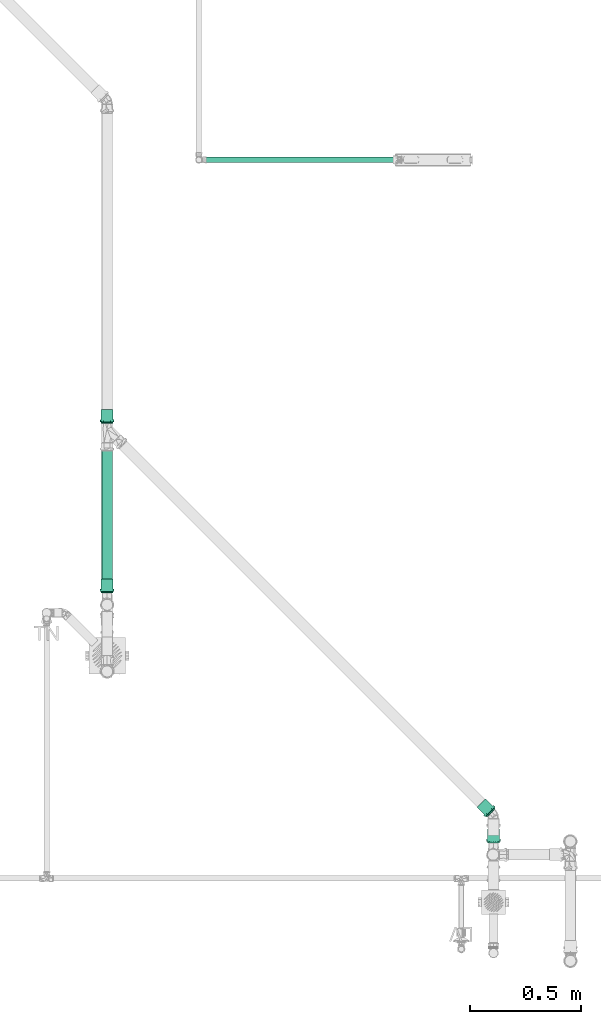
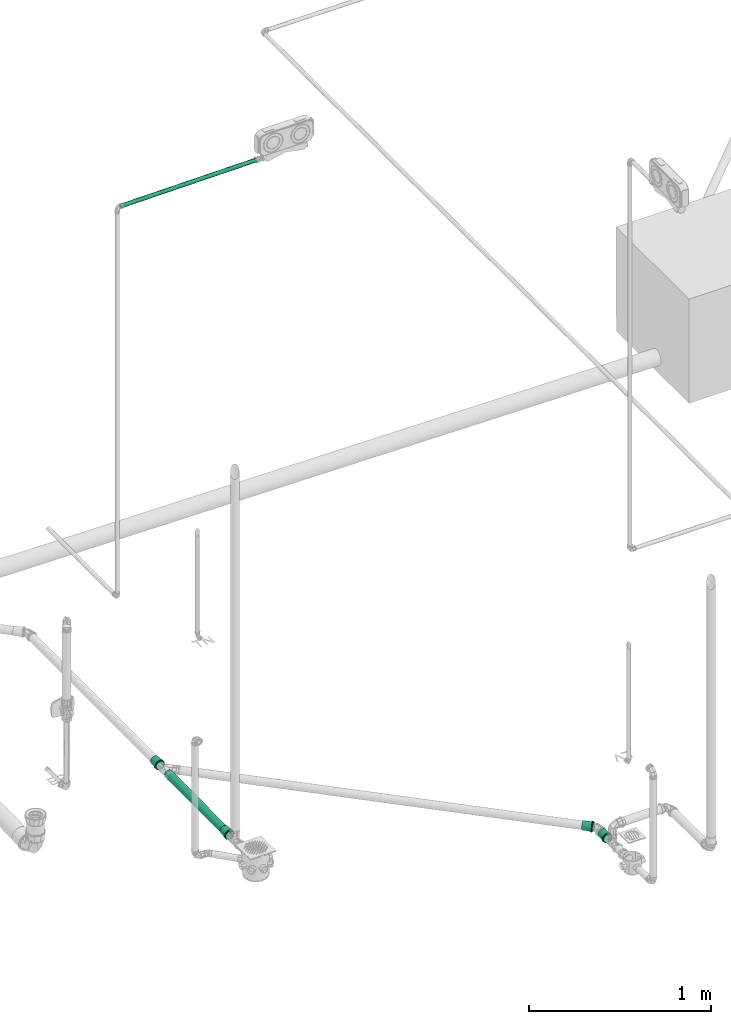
# One storey, part 232 of 589: 4 flow fittings, 2 flow segments.
"""IFC2X3 building model written with IfcOpenShell, lengths in millimetres."""

from ifc_helpers import new_model, entity, si_unit, converted_unit, derived_unit, direction, frame, frame_2d, origin, origin_2d_with_axis, place, context, subcontext, project, spatial, circle, extrude, faceted_brep, source, transform, mapped, material, type_object, type_shapes, element, save


model = new_model("IFC2X3")

# Units and contexts
model_context = context("Model", 3, precision=0.01, world=origin(), true_north=direction((6.123031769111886e-17, 1.0)))
body_context = subcontext(model_context, "Body", "Model", "MODEL_VIEW")
ifc_project = project(units=[si_unit("LENGTHUNIT", "METRE", prefix="MILLI"), si_unit("AREAUNIT", "SQUARE_METRE"), si_unit("VOLUMEUNIT", "CUBIC_METRE"), converted_unit("PLANEANGLEUNIT", "DEGREE", entity("IfcRatioMeasure", 0.017453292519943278), si_unit("PLANEANGLEUNIT", "RADIAN"), dimensions=[0, 0, 0, 0, 0, 0, 0]), si_unit("MASSUNIT", "GRAM", prefix="KILO"), derived_unit("MASSDENSITYUNIT", [(si_unit("MASSUNIT", "GRAM", prefix="KILO"), 1), (si_unit("LENGTHUNIT", "METRE"), -3)]), derived_unit("IONCONCENTRATIONUNIT", [(si_unit("MASSUNIT", "GRAM", prefix="KILO"), 1), (si_unit("LENGTHUNIT", "METRE"), -3)]), derived_unit("MOMENTOFINERTIAUNIT", [(si_unit("LENGTHUNIT", "METRE"), 4)]), si_unit("TIMEUNIT", "SECOND"), si_unit("FREQUENCYUNIT", "HERTZ"), si_unit("THERMODYNAMICTEMPERATUREUNIT", "DEGREE_CELSIUS"), derived_unit("THERMALTRANSMITTANCEUNIT", [(si_unit("MASSUNIT", "GRAM", prefix="KILO"), 1), (si_unit("THERMODYNAMICTEMPERATUREUNIT", "KELVIN"), -1), (si_unit("TIMEUNIT", "SECOND"), -3)]), derived_unit("THERMALCONDUCTANCEUNIT", [(si_unit("MASSUNIT", "GRAM", prefix="KILO"), 1), (si_unit("THERMODYNAMICTEMPERATUREUNIT", "KELVIN"), -1), (si_unit("TIMEUNIT", "SECOND"), -3), (si_unit("LENGTHUNIT", "METRE"), 1)]), derived_unit("VOLUMETRICFLOWRATEUNIT", [(si_unit("LENGTHUNIT", "METRE"), 3), (si_unit("TIMEUNIT", "SECOND"), -1)]), derived_unit("MASSFLOWRATEUNIT", [(si_unit("MASSUNIT", "GRAM", prefix="KILO"), 1), (si_unit("TIMEUNIT", "SECOND"), -1)]), derived_unit("ROTATIONALFREQUENCYUNIT", [(si_unit("TIMEUNIT", "SECOND"), -1)]), si_unit("ELECTRICCURRENTUNIT", "AMPERE"), si_unit("ELECTRICVOLTAGEUNIT", "VOLT"), si_unit("POWERUNIT", "WATT"), si_unit("FORCEUNIT", "NEWTON", prefix="KILO"), si_unit("ILLUMINANCEUNIT", "LUX"), si_unit("LUMINOUSFLUXUNIT", "LUMEN"), si_unit("LUMINOUSINTENSITYUNIT", "CANDELA"), derived_unit("USERDEFINED", [(si_unit("MASSUNIT", "GRAM", prefix="KILO"), -1), (si_unit("LENGTHUNIT", "METRE"), -2), (si_unit("TIMEUNIT", "SECOND"), 3), (si_unit("LUMINOUSFLUXUNIT", "LUMEN"), 1)]), derived_unit("USERDEFINED", [(si_unit("MASSUNIT", "GRAM", prefix="KILO"), 1), (si_unit("TIMEUNIT", "SECOND"), -3), (si_unit("LENGTHUNIT", "METRE"), 3), (si_unit("ELECTRICCURRENTUNIT", "AMPERE"), -2)]), derived_unit("SOUNDPOWERUNIT", [(si_unit("MASSUNIT", "GRAM", prefix="KILO"), 1), (si_unit("TIMEUNIT", "SECOND"), -3), (si_unit("LENGTHUNIT", "METRE"), 2)]), derived_unit("SOUNDPRESSUREUNIT", [(si_unit("MASSUNIT", "GRAM", prefix="KILO"), 1), (si_unit("LENGTHUNIT", "METRE"), -1), (si_unit("TIMEUNIT", "SECOND"), -2)]), derived_unit("LINEARVELOCITYUNIT", [(si_unit("LENGTHUNIT", "METRE"), 1), (si_unit("TIMEUNIT", "SECOND"), -1)]), si_unit("PRESSUREUNIT", "PASCAL"), derived_unit("USERDEFINED", [(si_unit("MASSUNIT", "GRAM", prefix="KILO"), 1), (si_unit("LENGTHUNIT", "METRE"), -2), (si_unit("TIMEUNIT", "SECOND"), -2)]), derived_unit("LINEARFORCEUNIT", [(si_unit("MASSUNIT", "GRAM", prefix="KILO"), 1), (si_unit("TIMEUNIT", "SECOND"), -2)]), derived_unit("PLANARFORCEUNIT", [(si_unit("MASSUNIT", "GRAM", prefix="KILO"), 1), (si_unit("LENGTHUNIT", "METRE"), -1), (si_unit("TIMEUNIT", "SECOND"), -2)]), derived_unit("SPECIFICHEATCAPACITYUNIT", [(si_unit("THERMODYNAMICTEMPERATUREUNIT", "KELVIN"), -1), (si_unit("LENGTHUNIT", "METRE"), 2), (si_unit("TIMEUNIT", "SECOND"), -2)]), derived_unit("HEATINGVALUEUNIT", [(si_unit("LENGTHUNIT", "METRE"), 2), (si_unit("TIMEUNIT", "SECOND"), -2)]), derived_unit("VAPORPERMEABILITYUNIT", [(si_unit("LENGTHUNIT", "METRE"), -1), (si_unit("TIMEUNIT", "SECOND"), 1)]), derived_unit("DYNAMICVISCOSITYUNIT", [(si_unit("MASSUNIT", "GRAM", prefix="KILO"), 1), (si_unit("TIMEUNIT", "SECOND"), -1), (si_unit("LENGTHUNIT", "METRE"), -1)]), derived_unit("THERMALEXPANSIONCOEFFICIENTUNIT", [(si_unit("THERMODYNAMICTEMPERATUREUNIT", "KELVIN"), -1)]), derived_unit("MODULUSOFELASTICITYUNIT", [(si_unit("MASSUNIT", "GRAM", prefix="KILO"), 1), (si_unit("LENGTHUNIT", "METRE"), -1), (si_unit("TIMEUNIT", "SECOND"), -2)]), derived_unit("ISOTHERMALMOISTURECAPACITYUNIT", [(si_unit("LENGTHUNIT", "METRE"), 3), (si_unit("MASSUNIT", "GRAM", prefix="KILO"), -1)]), derived_unit("MOISTUREDIFFUSIVITYUNIT", [(si_unit("TIMEUNIT", "SECOND"), -1), (si_unit("LENGTHUNIT", "METRE"), 2)])], contexts=[model_context])

# Site, building, storey
site_placement = place(None, origin())
site = spatial("IfcSite", under=ifc_project, at=site_placement, Name="Default", CompositionType="ELEMENT")
building_placement = place(site_placement, origin())
building = spatial("IfcBuilding", under=site, at=building_placement, CompositionType="ELEMENT")
storey_placement = place(building_placement, frame((0.0, 0.0, 100.0)))
storey = spatial("IfcBuildingStorey", under=building, at=storey_placement, Name="TÉRREO", CompositionType="ELEMENT", Elevation=100.0)

# Flow segments
pipe_segment_type_1 = type_object("IfcPipeSegmentType", Name="Tipos de tubos:PVC Esgoto Série Normal", PredefinedType="NOTDEFINED")
flow_segment_1_placement = place(storey_placement, origin())
element("IfcFlowSegment", 1, at=flow_segment_1_placement, inside=storey, type_object=pipe_segment_type_1, Name="Tipos de tubos:PVC Esgoto Série Normal", ObjectType="Tipos de tubos:PVC Esgoto Série Normal", context=body_context, shape_type="SweptSolid", body=[
    extrude(circle(Radius=25.0, at=frame_2d((0.0, -3.383918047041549e-14), x_axis=(1.0, 0.0))), frame((11656.425175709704, -437.84417376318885, -304.3930900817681), z_axis=(0.0, 0.9999876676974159, 0.0049663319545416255), x_axis=(1.0, 0.0, 0.0)), (0.0, 0.0, 1.0), 645.55429002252),
])
pipe_segment_type_2 = type_object("IfcPipeSegmentType", Name="Tipos de tubos:PVC Marrom Soldável", PredefinedType="NOTDEFINED")
flow_segment_2_placement = place(storey_placement, origin())
element("IfcFlowSegment", 2, at=flow_segment_2_placement, inside=storey, type_object=pipe_segment_type_2, Name="Tipos de tubos:PVC Marrom Soldável", ObjectType="Tipos de tubos:PVC Marrom Soldável", context=body_context, shape_type="SweptSolid", body=[
    extrude(circle(Radius=12.5, at=origin_2d_with_axis()), frame((12087.843995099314, 1487.2074695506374, 2577.9470883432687), z_axis=(0.9999500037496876, 0.0, 0.00999950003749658), x_axis=(0.0, 1.0, 0.0)), (0.0, 0.0, 1.0), 877.005019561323),
])

# Flow fittings
ifc_material = material(Name="PVC Série Normal")
pipe_fitting_type = type_object("IfcPipeFittingType", Name="PVC Esgoto_Luva Simples para Conexão_Rodrigo MEP:Standard", PredefinedType="NOTDEFINED", material=ifc_material)
shared_shape = source(origin(), body_context, "Body", "Brep", [
    faceted_brep([(16.599999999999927, 15.900000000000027, -27.53960784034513), (16.599999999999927, 22.485995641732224, -22.485995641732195), (16.599999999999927, 13.599999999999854, -23.555890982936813), (16.599999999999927, 7.039878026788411, -26.273182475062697), (16.599999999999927, 8.2304456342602, -30.71644127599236), (16.599999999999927, 19.233304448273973, -19.233304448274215), (16.599999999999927, 27.539607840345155, -15.899999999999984), (16.599999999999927, 23.55589098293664, -13.600000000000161), (16.599999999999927, 26.273182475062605, -7.03987802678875), (16.599999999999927, 30.716441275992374, -8.230445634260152), (16.599999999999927, 27.2, 0.0), (16.599999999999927, 31.8, 0.0), (16.599999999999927, 26.273182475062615, 7.0398780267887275), (16.599999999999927, 30.71644127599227, 8.23044563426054), (16.599999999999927, 23.555890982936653, 13.60000000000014), (16.599999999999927, 27.539607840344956, 15.900000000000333), (16.599999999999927, 19.233304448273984, 19.2333044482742), (16.599999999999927, 22.485995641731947, 22.48599564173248), (16.599999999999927, 13.599999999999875, 23.555890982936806), (16.599999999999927, 15.899999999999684, 27.53960784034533), (16.599999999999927, 7.039878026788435, 26.27318247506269), (16.599999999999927, 8.230445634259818, 30.716441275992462), (16.599999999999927, 0.0, 27.2), (16.599999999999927, 0.0, 31.8), (16.599999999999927, -7.039878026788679, 26.273182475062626), (16.599999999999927, -8.230445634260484, 30.716441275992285), (16.599999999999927, -13.600000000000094, 23.555890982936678), (16.599999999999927, -15.900000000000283, 27.53960784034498), (16.599999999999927, -19.23330444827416, 19.233304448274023), (16.599999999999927, -22.485995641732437, 22.48599564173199), (16.599999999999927, -23.55589098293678, 13.59999999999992), (16.599999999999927, -27.539607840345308, 15.899999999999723), (16.599999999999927, -30.71644127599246, 8.230445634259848), (16.599999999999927, -26.273182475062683, 7.039878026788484), (16.599999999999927, -31.8, 0.0), (16.599999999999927, -27.2, 0.0), (16.599999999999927, -30.71644127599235, -8.23044563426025), (16.599999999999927, -26.273182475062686, -7.03987802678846), (16.599999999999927, -27.53960784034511, -15.90000000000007), (16.599999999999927, -23.55589098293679, -13.599999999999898), (16.599999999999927, -22.485995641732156, -22.485995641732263), (16.599999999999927, -19.233304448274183, -19.233304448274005), (16.599999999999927, -15.899999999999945, -27.53960784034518), (16.599999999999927, -13.600000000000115, -23.555890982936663), (16.599999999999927, -8.230445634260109, -30.716441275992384), (16.599999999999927, -7.039878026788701, -26.273182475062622), (16.599999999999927, 0.0, -31.8), (16.599999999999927, 0.0, -27.2), (6.500000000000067, -10.708108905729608, 29.429219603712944), (6.500000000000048, -24.359073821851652, 20.44200387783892), (6.500000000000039, -27.120498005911, 15.6595386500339), (6.50000000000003, -29.881922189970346, 10.877073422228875), (6.500000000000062, -15.89769721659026, 27.540937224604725), (6.500000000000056, -20.128385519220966, 23.991470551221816), (6.50000000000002, -30.840961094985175, 5.438536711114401), (6.5000000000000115, -31.8, 0.0), (6.50000000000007, -5.518520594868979, 31.317501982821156), (6.500000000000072, 5.526376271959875, 31.316116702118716), (6.50000000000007, 0.00392783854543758, 31.316809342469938), (6.500000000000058, 20.134403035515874, 23.986420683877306), (6.500000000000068, 10.715490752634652, 29.42653259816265), (6.500000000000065, 15.904605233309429, 27.536948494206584), (6.500000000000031, 29.8846497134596, 10.869577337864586), (6.500000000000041, 27.12442527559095, 15.652735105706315), (6.5000000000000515, 24.364200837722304, 20.435892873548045), (6.5000000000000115, 31.8, 0.0), (6.499999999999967, 24.364200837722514, -20.435892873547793), (6.499999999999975, 27.12442527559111, -15.652735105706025), (6.499999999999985, 29.884649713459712, -10.869577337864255), (6.4999999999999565, 15.904605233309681, -27.53694849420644), (6.499999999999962, 20.134403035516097, -23.986420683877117), (6.499999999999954, 10.715490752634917, -29.42653259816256), (6.499999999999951, 5.526376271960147, -31.31611670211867), (6.499999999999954, -5.518520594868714, -31.317501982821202), (6.499999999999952, 0.003927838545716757, -31.316809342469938), (6.499999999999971, -20.128385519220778, -23.99147055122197), (6.499999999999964, -15.897697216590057, -27.54093722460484), (6.499999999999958, -10.70810890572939, -29.42921960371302), (6.499999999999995, -29.881922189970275, -10.877073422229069), (6.499999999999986, -27.12049800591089, -15.659538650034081), (6.499999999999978, -24.359073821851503, -20.442003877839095), (6.500000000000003, -30.840961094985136, -5.438536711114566), (6.499999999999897, -30.696173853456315, -6.259599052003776), (62.0, 13.600000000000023, -23.55589098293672), (62.0, 19.233304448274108, -19.23330444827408), (62.0, 12.499999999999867, -21.650635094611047), (62.0, 6.470476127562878, -24.14814565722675), (62.0, 7.039878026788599, -26.273182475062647), (62.0, 17.677669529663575, -17.677669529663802), (62.0, 23.55589098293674, -13.599999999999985), (62.0, 21.65063509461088, -12.50000000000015), (62.0, 24.148145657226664, -6.470476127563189), (62.0, 26.27318247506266, -7.039878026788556), (62.0, 25.0, 0.0), (62.0, 27.2, 0.0), (62.0, 24.148145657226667, 6.4704761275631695), (62.0, 26.273182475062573, 7.03987802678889), (62.0, 21.650635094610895, 12.500000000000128), (62.0, 23.555890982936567, 13.600000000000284), (62.0, 17.67766952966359, 17.67766952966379), (62.0, 19.233304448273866, 19.233304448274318), (62.0, 12.499999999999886, 21.650635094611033), (62.0, 13.59999999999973, 23.55589098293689), (62.0, 6.4704761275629, 24.14814565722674), (62.0, 7.039878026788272, 26.273182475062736), (62.0, 0.0, 25.0), (62.0, 0.0, 27.2), (62.0, -6.470476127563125, 24.148145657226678), (62.0, -7.039878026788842, 26.273182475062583), (62.0, -12.500000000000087, 21.650635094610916), (62.0, -13.600000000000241, 23.555890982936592), (62.0, -17.677669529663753, 17.677669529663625), (62.0, -19.233304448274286, 19.2333044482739), (62.0, -21.65063509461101, 12.499999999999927), (62.0, -23.555890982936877, 13.599999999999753), (62.0, -26.27318247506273, 7.039878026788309), (62.0, -24.14814565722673, 6.470476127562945), (62.0, -27.2, 0.0), (62.0, -25.0, 0.0), (62.0, -26.27318247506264, -7.0398780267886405), (62.0, -24.148145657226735, -6.470476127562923), (62.0, -23.5558909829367, -13.600000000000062), (62.0, -21.650635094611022, -12.499999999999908), (62.0, -19.233304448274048, -19.233304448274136), (62.0, -17.67766952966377, -17.677669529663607), (62.0, -13.599999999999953, -23.555890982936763), (62.0, -12.500000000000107, -21.650635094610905), (62.0, -7.039878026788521, -26.27318247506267), (62.0, -6.470476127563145, -24.148145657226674), (62.0, 0.0, -27.2), (62.0, 0.0, -25.0), (0.0, 12.499999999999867, -21.650635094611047), (0.0, 19.233304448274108, -19.23330444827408), (0.0, 13.600000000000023, -23.55589098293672), (0.0, 6.470476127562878, -24.14814565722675), (0.0, 17.677669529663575, -17.677669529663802), (0.0, 23.55589098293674, -13.599999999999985), (0.0, 21.65063509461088, -12.50000000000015), (0.0, 24.148145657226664, -6.470476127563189), (0.0, 26.27318247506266, -7.039878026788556), (0.0, 25.0, 0.0), (0.0, 27.2, 0.0), (0.0, 24.148145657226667, 6.4704761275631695), (0.0, 26.273182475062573, 7.03987802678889), (0.0, 21.650635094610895, 12.500000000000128), (0.0, 23.555890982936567, 13.600000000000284), (0.0, 17.67766952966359, 17.67766952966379), (0.0, 19.233304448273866, 19.233304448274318), (0.0, 12.499999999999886, 21.650635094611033), (0.0, 13.59999999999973, 23.55589098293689), (0.0, 6.4704761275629, 24.14814565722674), (0.0, 7.039878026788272, 26.273182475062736), (0.0, 0.0, 25.0), (0.0, 0.0, 27.2), (0.0, -6.470476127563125, 24.148145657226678), (0.0, -7.039878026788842, 26.273182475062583), (0.0, -12.500000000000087, 21.650635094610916), (0.0, -13.600000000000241, 23.555890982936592), (0.0, -17.677669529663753, 17.677669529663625), (0.0, -19.233304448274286, 19.2333044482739), (0.0, -21.65063509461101, 12.499999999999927), (0.0, -23.555890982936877, 13.599999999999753), (0.0, -26.27318247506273, 7.039878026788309), (0.0, -24.14814565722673, 6.470476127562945), (0.0, -27.2, 0.0), (0.0, -25.0, 0.0), (0.0, -26.27318247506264, -7.0398780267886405), (0.0, -24.148145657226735, -6.470476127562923), (0.0, -23.5558909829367, -13.600000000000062), (0.0, -21.650635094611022, -12.499999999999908), (0.0, -19.233304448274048, -19.233304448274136), (0.0, -17.67766952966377, -17.677669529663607), (0.0, -13.599999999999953, -23.555890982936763), (0.0, -12.500000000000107, -21.650635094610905), (0.0, -7.039878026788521, -26.27318247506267), (0.0, -6.470476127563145, -24.148145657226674), (0.0, 0.0, -27.2), (0.0, 0.0, -25.0), (0.0, 7.039878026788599, -26.273182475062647), (5.300000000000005, -26.37968999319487, 4.651830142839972), (5.299999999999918, -26.25584678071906, 5.354122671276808), (5.300000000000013, -25.559379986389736, 9.303660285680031), (5.300000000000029, -20.835434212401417, 17.48498444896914), (5.300000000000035, -17.216732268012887, 20.521006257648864), (5.300000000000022, -23.19740709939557, 13.394322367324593), (5.3000000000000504, -4.720244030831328, 26.787297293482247), (5.300000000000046, -9.15913717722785, 25.172162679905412), (5.299999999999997, -27.2, 0.0), (5.300000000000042, -13.598030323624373, 23.557028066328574), (5.300000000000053, 9.165451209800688, 25.169864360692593), (5.300000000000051, 13.603939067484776, 23.55361632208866), (5.300000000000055, 4.7269633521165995, 26.786112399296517), (5.300000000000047, 17.221879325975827, 20.516686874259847), (5.300000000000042, 20.839819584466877, 17.479757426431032), (5.3000000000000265, 25.56171296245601, 9.297248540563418), (5.299999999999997, 27.2, 0.0), (5.3000000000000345, 23.20076627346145, 13.388502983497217), (5.300000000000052, 0.003359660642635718, 26.786704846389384), (5.299999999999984, 25.56171296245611, -9.29724854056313), (5.299999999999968, 20.839819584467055, -17.47975742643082), (5.2999999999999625, 17.22187932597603, -20.516686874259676), (5.299999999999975, 23.200766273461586, -13.388502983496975), (5.299999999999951, 4.726963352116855, -26.78611239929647), (5.2999999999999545, 9.165451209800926, -25.169864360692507), (5.299999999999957, 13.603939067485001, -23.553616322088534), (5.29999999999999, -26.379689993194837, -4.651830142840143), (5.299999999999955, -9.159137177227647, -25.17216267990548), (5.299999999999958, -13.5980303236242, -23.55702806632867), (5.299999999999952, -4.720244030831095, -26.787297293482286), (5.299999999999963, -17.216732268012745, -20.52100625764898), (5.299999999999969, -20.83543421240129, -17.484984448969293), (5.299999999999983, -25.559379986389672, -9.303660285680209), (5.299999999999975, -23.197407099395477, -13.394322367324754), (5.299999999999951, 0.003359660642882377, -26.78670484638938), (39.0, -25.0, 0.0), (39.0, 25.0, 0.0)], [[[0, 1, 2]], [[0, 2, 3]], [[3, 4, 0]], [[2, 1, 5]], [[6, 5, 1]], [[7, 5, 6]], [[8, 7, 6]], [[8, 6, 9]], [[8, 9, 10]], [[10, 9, 11]], [[12, 10, 11]], [[12, 11, 13]], [[14, 12, 13]], [[14, 13, 15]], [[16, 14, 15]], [[15, 17, 16]], [[17, 18, 16]], [[17, 19, 18]], [[18, 19, 20]], [[21, 20, 19]], [[20, 21, 22]], [[22, 21, 23]], [[22, 23, 24]], [[24, 23, 25]], [[24, 25, 26]], [[27, 26, 25]], [[27, 28, 26]], [[28, 27, 29]], [[30, 28, 29]], [[31, 30, 29]], [[32, 30, 31]], [[33, 30, 32]], [[33, 32, 34]], [[35, 33, 34]], [[36, 35, 34]], [[36, 37, 35]], [[37, 36, 38]], [[39, 37, 38]], [[39, 38, 40]], [[39, 40, 41]], [[40, 42, 41]], [[41, 42, 43]], [[43, 42, 44]], [[44, 45, 43]], [[46, 45, 44]], [[4, 47, 46]], [[46, 47, 45]], [[4, 3, 47]], [[48, 27, 25]], [[31, 29, 49]], [[31, 49, 50, 51]], [[52, 53, 27]], [[32, 51, 54]], [[54, 55, 34]], [[54, 34, 32]], [[25, 56, 48]], [[49, 29, 53]], [[23, 57, 58, 56]], [[59, 19, 17]], [[27, 53, 29]], [[48, 52, 27]], [[31, 51, 32]], [[57, 23, 21]], [[60, 19, 61]], [[15, 62, 63, 64]], [[19, 60, 21]], [[15, 13, 62]], [[17, 64, 59]], [[57, 21, 60]], [[23, 56, 25]], [[15, 64, 17]], [[13, 65, 62]], [[13, 11, 65]], [[59, 61, 19]], [[65, 11, 9]], [[6, 1, 66]], [[6, 66, 67, 68]], [[69, 70, 0]], [[68, 65, 9]], [[71, 69, 0]], [[71, 0, 4]], [[4, 72, 71]], [[66, 1, 70]], [[46, 73, 74, 72]], [[75, 76, 42]], [[0, 70, 1]], [[75, 42, 40]], [[6, 68, 9]], [[73, 46, 44]], [[77, 42, 76]], [[38, 78, 79, 80]], [[42, 77, 44]], [[38, 36, 78]], [[40, 80, 75]], [[73, 44, 77]], [[46, 72, 4]], [[38, 80, 40]], [[36, 81, 82, 78]], [[55, 81, 34]], [[34, 81, 36]], [[83, 84, 85]], [[83, 85, 86]], [[86, 87, 83]], [[85, 84, 88]], [[89, 88, 84]], [[88, 89, 90]], [[90, 89, 91]], [[92, 91, 89]], [[92, 93, 91]], [[93, 92, 94]], [[95, 93, 94]], [[94, 96, 95]], [[95, 96, 97]], [[98, 97, 96]], [[97, 98, 99]], [[99, 98, 100]], [[101, 99, 100]], [[100, 102, 101]], [[101, 102, 103]], [[104, 103, 102]], [[103, 104, 105]], [[105, 104, 106]], [[105, 106, 107]], [[107, 106, 108]], [[107, 108, 109]], [[110, 109, 108]], [[110, 111, 109]], [[111, 110, 112]], [[112, 113, 111]], [[114, 113, 112]], [[113, 114, 115]], [[115, 116, 113]], [[117, 116, 115]], [[117, 118, 116]], [[119, 118, 117]], [[119, 120, 118]], [[120, 119, 121]], [[121, 122, 120]], [[122, 121, 123]], [[122, 123, 124]], [[123, 125, 124]], [[124, 125, 126]], [[126, 125, 127]], [[127, 128, 126]], [[129, 128, 127]], [[87, 130, 129]], [[129, 130, 128]], [[87, 86, 130]], [[131, 132, 133]], [[134, 131, 133]], [[135, 132, 131]], [[132, 135, 136]], [[137, 136, 135]], [[138, 136, 137]], [[136, 138, 139]], [[138, 140, 139]], [[141, 139, 140]], [[141, 140, 142]], [[142, 143, 141]], [[144, 143, 142]], [[143, 144, 145]], [[146, 145, 144]], [[147, 145, 146]], [[147, 146, 148]], [[148, 149, 147]], [[150, 149, 148]], [[149, 150, 151]], [[152, 151, 150]], [[153, 151, 152]], [[154, 153, 152]], [[155, 153, 154]], [[156, 155, 154]], [[155, 156, 157]], [[156, 158, 157]], [[159, 157, 158]], [[158, 160, 159]], [[159, 160, 161]], [[162, 161, 160]], [[160, 163, 162]], [[162, 163, 164]], [[163, 165, 164]], [[164, 165, 166]], [[165, 167, 166]], [[168, 166, 167]], [[167, 169, 168]], [[170, 168, 169]], [[171, 170, 169]], [[171, 172, 170]], [[173, 172, 171]], [[174, 172, 173]], [[173, 175, 174]], [[174, 175, 176]], [[175, 177, 176]], [[177, 134, 178]], [[176, 177, 178]], [[133, 178, 134]], [[162, 179, 180, 181]], [[159, 182, 183]], [[182, 161, 181, 184]], [[185, 155, 186]], [[161, 162, 181]], [[187, 179, 164]], [[183, 188, 157]], [[183, 157, 159]], [[161, 182, 159]], [[189, 190, 149]], [[189, 149, 151]], [[157, 188, 186]], [[157, 186, 155]], [[153, 155, 185]], [[164, 179, 162]], [[151, 191, 189]], [[147, 192, 193]], [[143, 194, 195]], [[194, 145, 193, 196]], [[143, 195, 141]], [[10, 12, 96, 94]], [[149, 192, 147]], [[153, 185, 197, 191]], [[153, 191, 151]], [[145, 147, 193]], [[190, 192, 149]], [[145, 194, 143]], [[139, 195, 198]], [[132, 199, 200]], [[199, 136, 198, 201]], [[202, 178, 203]], [[136, 139, 198]], [[139, 141, 195]], [[92, 8, 10, 94]], [[133, 203, 178]], [[200, 204, 133]], [[136, 199, 132]], [[205, 164, 166]], [[206, 207, 172]], [[133, 204, 203]], [[206, 172, 174]], [[176, 178, 202]], [[200, 133, 132]], [[174, 208, 206]], [[170, 209, 210]], [[166, 211, 205]], [[211, 168, 210, 212]], [[168, 211, 166]], [[172, 209, 170]], [[176, 202, 213, 208]], [[176, 208, 174]], [[168, 170, 210]], [[207, 209, 172]], [[205, 187, 164]], [[116, 118, 214, 165, 163]], [[156, 109, 111, 158]], [[111, 113, 160, 158]], [[113, 116, 163, 160]], [[107, 109, 156, 154]], [[154, 152, 105, 107]], [[103, 105, 152, 150]], [[103, 150, 148, 101]], [[142, 95, 97, 144]], [[97, 99, 146, 144]], [[99, 101, 148, 146]], [[93, 95, 142, 140, 215]], [[215, 140, 138, 91, 93]], [[135, 131, 85, 88]], [[90, 91, 138, 137]], [[90, 137, 135, 88]], [[86, 85, 131, 134]], [[134, 177, 130, 86]], [[128, 130, 177, 175]], [[128, 175, 173, 126]], [[167, 120, 122, 169]], [[122, 124, 171, 169]], [[124, 126, 173, 171]], [[118, 120, 167, 165, 214]], [[211, 78, 82, 81, 55, 187, 205]], [[79, 78, 211, 212, 210, 80]], [[75, 80, 210, 209, 207, 76]], [[207, 206, 208, 73, 77, 76]], [[213, 202, 72, 74, 73, 208]], [[203, 204, 69, 71, 72, 202]], [[198, 195, 65, 68]], [[199, 201, 198, 68, 67, 66]], [[204, 200, 199, 66, 70, 69]], [[195, 194, 62, 65]], [[197, 185, 56, 58, 57, 191]], [[63, 62, 194, 196, 193, 64]], [[57, 60, 61, 190, 189, 191]], [[193, 192, 190, 61, 59, 64]], [[48, 56, 185, 186, 188, 52]], [[187, 55, 54, 51, 181, 180, 179]], [[182, 184, 181, 51, 50, 49]], [[188, 183, 182, 49, 53, 52]], [[30, 33, 115, 114]], [[117, 115, 33, 35]], [[26, 28, 112, 110]], [[114, 112, 28, 30]], [[24, 26, 110, 108]], [[108, 106, 22, 24]], [[18, 20, 104, 102]], [[100, 16, 18, 102]], [[12, 14, 98, 96]], [[100, 98, 14, 16]], [[104, 20, 22, 106]], [[89, 7, 8, 92]], [[83, 87, 3, 2]], [[7, 89, 84, 5]], [[83, 2, 5, 84]], [[87, 129, 47, 3]], [[43, 45, 127, 125]], [[123, 41, 43, 125]], [[37, 39, 121, 119]], [[123, 121, 39, 41]], [[35, 37, 119, 117]], [[127, 45, 47, 129]]]),
])
type_shapes(pipe_fitting_type, [shared_shape])
for number, where, z_axis, x_axis, name in (
    (3, (11656.471838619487, -470.15073277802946, -303.1526171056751), (1.0, 0.0, 0.0), (0.0, 0.9999876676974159, 0.004966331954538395), "PVC Esgoto_Luva Simples para Conexão_Rodrigo MEP:Standard"),
    (4, (11656.425175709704, 296.0010661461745, -300.74852607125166), (0.03323188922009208, 0.004963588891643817, -0.9994353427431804), (0.0, 0.9999876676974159, 0.004966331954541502), "PVC Esgoto_Luva Simples para Conexão_Rodrigo MEP:Standard"),
    (5, (13391.760519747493, -1464.492818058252, -251.79729648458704), (-0.028270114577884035, 0.0, 0.999600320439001), (-0.7070367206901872, 0.706894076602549, -0.019996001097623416), "PVC Esgoto_Luva Simples para Conexão_Rodrigo MEP:Standard"),
    (6, (13403.0548188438, -1599.9587716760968, -251.47787768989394), (0.9996003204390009, 0.0, 0.028270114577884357), (0.0, 1.0, 0.0), "PVC Esgoto_Luva Simples para Conexão_Rodrigo MEP:Standard"),
):
    element("IfcFlowFitting", number, at=place(storey_placement, frame(where, z_axis=z_axis, x_axis=x_axis)), inside=storey, type_object=pipe_fitting_type, material=ifc_material, Name=name, ObjectType="PVC Esgoto_Luva Simples para Conexão_Rodrigo MEP:Standard", context=body_context, shape_type="MappedRepresentation", body=[
        mapped(shared_shape, transform((0.0, 0.0, 0.0), scale=1.0)),
    ])

save(model, "model.ifc")
